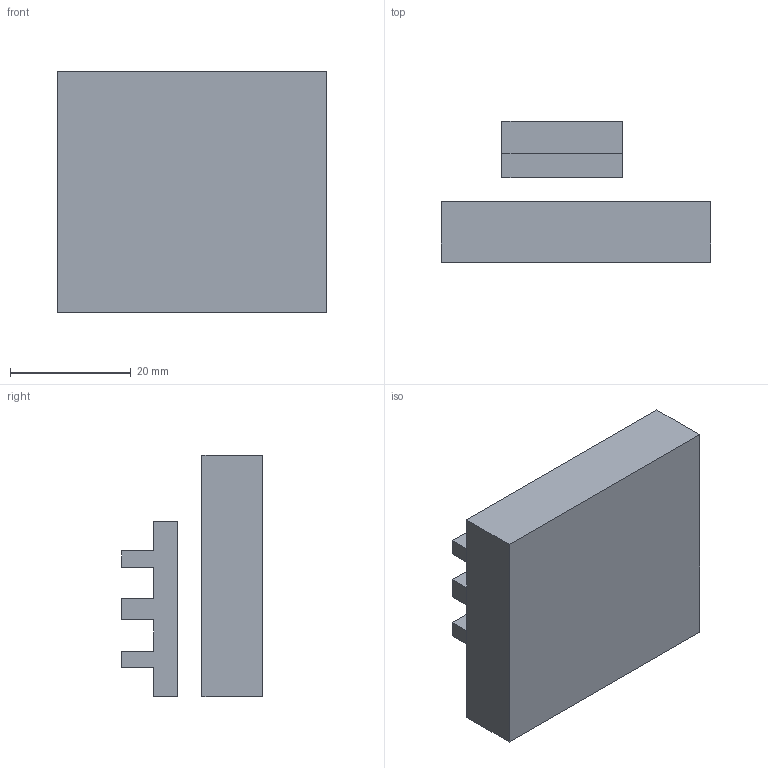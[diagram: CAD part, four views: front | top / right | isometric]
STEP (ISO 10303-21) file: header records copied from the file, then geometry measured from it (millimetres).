
FILE_DESCRIPTION (( 'STEP AP214' ), '1' );
FILE_NAME ('geeekpi 3.STEP', '2022-01-16T09:05:28', ( '' ), ( '' ), 'SwSTEP 2.0', 'SolidWorks 2021', '' );
FILE_SCHEMA (( 'AUTOMOTIVE_DESIGN' ));
Length unit declared in the file: millimetre
Products named in the file (1): geeekpi 3
Bounding box: 44.5 x 23.3 x 40 mm (x, y, z)
Volume: 21023.5 mm3; surface area: 7573.2 mm2
Topology: 2 solids, 2 shells, 32 faces, 80 edges, 52 vertices
Faces by surface type: plane 24, cone 4, cylinder 4
Entity records: 1039 total; most frequent: CARTESIAN_POINT 165, ORIENTED_EDGE 160, DIRECTION 158, EDGE_CURVE 80, VECTOR 68, LINE 68, VERTEX_POINT 52, AXIS2_PLACEMENT_3D 45
